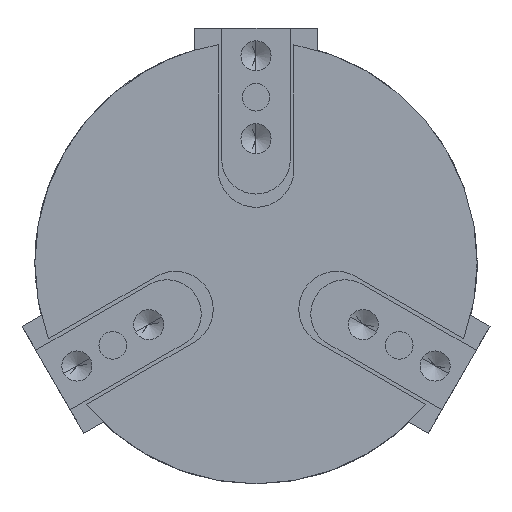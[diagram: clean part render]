
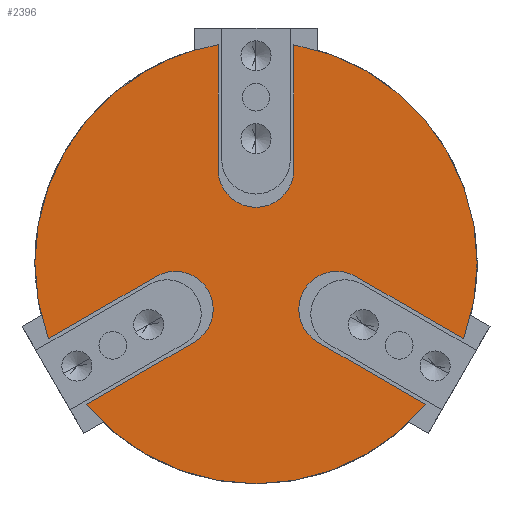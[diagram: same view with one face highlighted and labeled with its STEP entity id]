
A CAD part, front view. The second image highlights one B-rep face of the part: STEP entity #2396.
In plain terms, the highlighted planar face has unit normal (0, -1, 0).
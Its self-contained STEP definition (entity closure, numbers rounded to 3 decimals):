
#6 = CARTESIAN_POINT ( 'NONE',  ( -16.284, -1.181, 19.493 ) ) ;
#46 = VERTEX_POINT ( 'NONE', #2461 ) ;
#110 = ORIENTED_EDGE ( 'NONE', *, *, #4599, .T. ) ;
#137 = EDGE_CURVE ( 'NONE', #2778, #1607, #649, .T. ) ;
#174 = ORIENTED_EDGE ( 'NONE', *, *, #137, .T. ) ;
#206 = ORIENTED_EDGE ( 'NONE', *, *, #2676, .T. ) ;
#238 = VERTEX_POINT ( 'NONE', #1199 ) ;
#239 = VERTEX_POINT ( 'NONE', #1543 ) ;
#263 = CARTESIAN_POINT ( 'NONE',  ( -8.739, -1.181, -23.849 ) ) ;
#319 = DIRECTION ( 'NONE',  ( 0., 1., 0. ) ) ;
#355 = CIRCLE ( 'NONE', #4142, 4.356 ) ;
#389 = VERTEX_POINT ( 'NONE', #263 ) ;
#403 = CARTESIAN_POINT ( 'NONE',  ( 10.706, -1.181, -4.356 ) ) ;
#419 = CARTESIAN_POINT ( 'NONE',  ( 25.024, -1.181, 4.356 ) ) ;
#464 = DIRECTION ( 'NONE',  ( 0., 1., 0. ) ) ;
#525 = VERTEX_POINT ( 'NONE', #1969 ) ;
#649 = LINE ( 'NONE', #419, #4351 ) ;
#668 = DIRECTION ( 'NONE',  ( 0., 1., 0. ) ) ;
#673 = CARTESIAN_POINT ( 'NONE',  ( -9.126, -1.181, -7.094 ) ) ;
#690 = AXIS2_PLACEMENT_3D ( 'NONE', #1385, #3859, #1767 ) ;
#737 = EDGE_LOOP ( 'NONE', ( #3504, #1322, #3713, #1103, #2436, #3402, #4001, #206, #1912, #174, #2279, #110, #2708, #1455 ) ) ;
#800 = CARTESIAN_POINT ( 'NONE',  ( -16.284, -1.181, -19.493 ) ) ;
#836 = LINE ( 'NONE', #1898, #949 ) ;
#845 = VECTOR ( 'NONE', #2303, 1000. ) ;
#892 = EDGE_CURVE ( 'NONE', #1425, #1607, #939, .T. ) ;
#929 = AXIS2_PLACEMENT_3D ( 'NONE', #3725, #1626, #4086 ) ;
#939 = CIRCLE ( 'NONE', #1845, 25.4 ) ;
#949 = VECTOR ( 'NONE', #4331, 1000. ) ;
#1103 = ORIENTED_EDGE ( 'NONE', *, *, #3690, .T. ) ;
#1133 = VECTOR ( 'NONE', #1572, 1000. ) ;
#1178 = EDGE_CURVE ( 'NONE', #4281, #2778, #2026, .T. ) ;
#1196 = VERTEX_POINT ( 'NONE', #1838 ) ;
#1199 = CARTESIAN_POINT ( 'NONE',  ( 0., -1.181, -25.4 ) ) ;
#1285 = AXIS2_PLACEMENT_3D ( 'NONE', #2887, #668, #3225 ) ;
#1311 = EDGE_CURVE ( 'NONE', #238, #389, #4453, .T. ) ;
#1322 = ORIENTED_EDGE ( 'NONE', *, *, #4285, .T. ) ;
#1385 = CARTESIAN_POINT ( 'NONE',  ( 0., -1.181, 0. ) ) ;
#1398 = VERTEX_POINT ( 'NONE', #3415 ) ;
#1402 = CARTESIAN_POINT ( 'NONE',  ( -5.353, -1.181, -9.272 ) ) ;
#1425 = VERTEX_POINT ( 'NONE', #3767 ) ;
#1455 = ORIENTED_EDGE ( 'NONE', *, *, #3509, .T. ) ;
#1456 = DIRECTION ( 'NONE',  ( 0., 1., 0. ) ) ;
#1543 = CARTESIAN_POINT ( 'NONE',  ( -1.581, -1.181, -11.45 ) ) ;
#1571 = VECTOR ( 'NONE', #2055, 1000. ) ;
#1572 = DIRECTION ( 'NONE',  ( 0.5, 0., 0.866 ) ) ;
#1581 = CARTESIAN_POINT ( 'NONE',  ( -5.353, -1.181, -9.272 ) ) ;
#1607 = VERTEX_POINT ( 'NONE', #4147 ) ;
#1626 = DIRECTION ( 'NONE',  ( 0., 1., 0. ) ) ;
#1698 = PLANE ( 'NONE',  #2926 ) ;
#1699 = VERTEX_POINT ( 'NONE', #673 ) ;
#1767 = DIRECTION ( 'NONE',  ( 0., 0., 1. ) ) ;
#1786 = DIRECTION ( 'NONE',  ( 0.866, 0., -0.5 ) ) ;
#1810 = LINE ( 'NONE', #4120, #1571 ) ;
#1838 = CARTESIAN_POINT ( 'NONE',  ( -16.284, -1.181, -19.493 ) ) ;
#1845 = AXIS2_PLACEMENT_3D ( 'NONE', #2580, #319, #2920 ) ;
#1898 = CARTESIAN_POINT ( 'NONE',  ( -8.739, -1.181, 23.849 ) ) ;
#1912 = ORIENTED_EDGE ( 'NONE', *, *, #1178, .T. ) ;
#1915 = DIRECTION ( 'NONE',  ( -1., 0., 0. ) ) ;
#1961 = DIRECTION ( 'NONE',  ( 0.866, 0., -0.5 ) ) ;
#1969 = CARTESIAN_POINT ( 'NONE',  ( -9.126, -1.181, 7.094 ) ) ;
#1987 = LINE ( 'NONE', #6, #845 ) ;
#2026 = CIRCLE ( 'NONE', #4653, 4.356 ) ;
#2055 = DIRECTION ( 'NONE',  ( -0.5, 0., -0.866 ) ) ;
#2088 = DIRECTION ( 'NONE',  ( 0., 1., 0. ) ) ;
#2239 = FACE_OUTER_BOUND ( 'NONE', #737, .T. ) ;
#2267 = AXIS2_PLACEMENT_3D ( 'NONE', #2712, #464, #3056 ) ;
#2275 = EDGE_CURVE ( 'NONE', #46, #238, #4485, .T. ) ;
#2279 = ORIENTED_EDGE ( 'NONE', *, *, #892, .F. ) ;
#2303 = DIRECTION ( 'NONE',  ( -0.5, 0., 0.866 ) ) ;
#2396 = ADVANCED_FACE ( 'NONE', ( #2239 ), #1698, .F. ) ;
#2436 = ORIENTED_EDGE ( 'NONE', *, *, #2896, .T. ) ;
#2461 = CARTESIAN_POINT ( 'NONE',  ( 25.024, -1.181, -4.356 ) ) ;
#2493 = DIRECTION ( 'NONE',  ( 1., 0., 0. ) ) ;
#2505 = VECTOR ( 'NONE', #1915, 1000. ) ;
#2580 = CARTESIAN_POINT ( 'NONE',  ( 0., -1.181, 0. ) ) ;
#2614 = CARTESIAN_POINT ( 'NONE',  ( -16.284, -1.181, 19.493 ) ) ;
#2676 = EDGE_CURVE ( 'NONE', #46, #4281, #3289, .T. ) ;
#2708 = ORIENTED_EDGE ( 'NONE', *, *, #3431, .T. ) ;
#2712 = CARTESIAN_POINT ( 'NONE',  ( 0., -1.181, 0. ) ) ;
#2778 = VERTEX_POINT ( 'NONE', #3367 ) ;
#2887 = CARTESIAN_POINT ( 'NONE',  ( -5.353, -1.181, 9.272 ) ) ;
#2896 = EDGE_CURVE ( 'NONE', #239, #389, #1810, .T. ) ;
#2914 = CIRCLE ( 'NONE', #4063, 4.356 ) ;
#2920 = DIRECTION ( 'NONE',  ( 0., 0., 1. ) ) ;
#2926 = AXIS2_PLACEMENT_3D ( 'NONE', #3789, #2088, #4499 ) ;
#3031 = CIRCLE ( 'NONE', #1285, 4.356 ) ;
#3056 = DIRECTION ( 'NONE',  ( 0., 0., 1. ) ) ;
#3225 = DIRECTION ( 'NONE',  ( -0.866, 0., -0.5 ) ) ;
#3289 = LINE ( 'NONE', #4340, #2505 ) ;
#3367 = CARTESIAN_POINT ( 'NONE',  ( 10.706, -1.181, 4.356 ) ) ;
#3402 = ORIENTED_EDGE ( 'NONE', *, *, #1311, .F. ) ;
#3415 = CARTESIAN_POINT ( 'NONE',  ( -1.581, -1.181, 11.45 ) ) ;
#3431 = EDGE_CURVE ( 'NONE', #1398, #525, #3031, .T. ) ;
#3504 = ORIENTED_EDGE ( 'NONE', *, *, #3778, .F. ) ;
#3509 = EDGE_CURVE ( 'NONE', #525, #4571, #1987, .T. ) ;
#3546 = VERTEX_POINT ( 'NONE', #4037 ) ;
#3574 = CARTESIAN_POINT ( 'NONE',  ( 10.706, -1.181, 0. ) ) ;
#3649 = CIRCLE ( 'NONE', #929, 25.4 ) ;
#3690 = EDGE_CURVE ( 'NONE', #3546, #239, #355, .T. ) ;
#3713 = ORIENTED_EDGE ( 'NONE', *, *, #4055, .T. ) ;
#3725 = CARTESIAN_POINT ( 'NONE',  ( 0., -1.181, 0. ) ) ;
#3767 = CARTESIAN_POINT ( 'NONE',  ( -8.739, -1.181, 23.849 ) ) ;
#3778 = EDGE_CURVE ( 'NONE', #1196, #4571, #3649, .T. ) ;
#3789 = CARTESIAN_POINT ( 'NONE',  ( 0., -1.181, 0. ) ) ;
#3859 = DIRECTION ( 'NONE',  ( 0., 1., 0. ) ) ;
#3868 = LINE ( 'NONE', #800, #1133 ) ;
#3881 = DIRECTION ( 'NONE',  ( 0., 1., 0. ) ) ;
#3927 = DIRECTION ( 'NONE',  ( 0., 0., 1. ) ) ;
#4001 = ORIENTED_EDGE ( 'NONE', *, *, #2275, .F. ) ;
#4037 = CARTESIAN_POINT ( 'NONE',  ( -5.353, -1.181, -4.916 ) ) ;
#4042 = DIRECTION ( 'NONE',  ( 0., 1., 0. ) ) ;
#4055 = EDGE_CURVE ( 'NONE', #1699, #3546, #2914, .T. ) ;
#4063 = AXIS2_PLACEMENT_3D ( 'NONE', #1402, #3881, #1786 ) ;
#4086 = DIRECTION ( 'NONE',  ( 0., 0., 1. ) ) ;
#4120 = CARTESIAN_POINT ( 'NONE',  ( -8.739, -1.181, -23.849 ) ) ;
#4142 = AXIS2_PLACEMENT_3D ( 'NONE', #1581, #4042, #1961 ) ;
#4147 = CARTESIAN_POINT ( 'NONE',  ( 25.024, -1.181, 4.356 ) ) ;
#4281 = VERTEX_POINT ( 'NONE', #403 ) ;
#4285 = EDGE_CURVE ( 'NONE', #1196, #1699, #3868, .T. ) ;
#4331 = DIRECTION ( 'NONE',  ( 0.5, 0., -0.866 ) ) ;
#4340 = CARTESIAN_POINT ( 'NONE',  ( 25.024, -1.181, -4.356 ) ) ;
#4351 = VECTOR ( 'NONE', #2493, 1000. ) ;
#4453 = CIRCLE ( 'NONE', #2267, 25.4 ) ;
#4485 = CIRCLE ( 'NONE', #690, 25.4 ) ;
#4499 = DIRECTION ( 'NONE',  ( 0., 0., 1. ) ) ;
#4571 = VERTEX_POINT ( 'NONE', #2614 ) ;
#4599 = EDGE_CURVE ( 'NONE', #1425, #1398, #836, .T. ) ;
#4653 = AXIS2_PLACEMENT_3D ( 'NONE', #3574, #1456, #3927 ) ;
